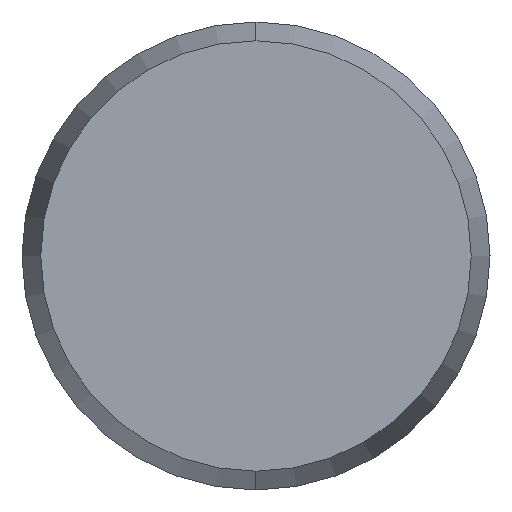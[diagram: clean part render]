
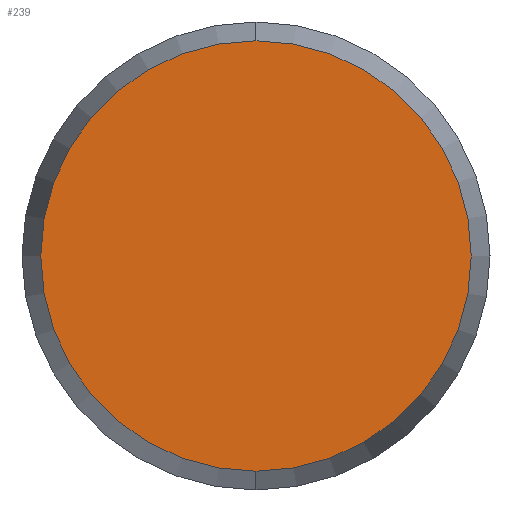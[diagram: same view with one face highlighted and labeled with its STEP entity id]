
A CAD part, left-side view. The second image highlights one B-rep face of the part: STEP entity #239.
In plain terms, the highlighted planar face has unit normal (-1, 0, 0).
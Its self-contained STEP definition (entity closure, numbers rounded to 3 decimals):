
#46 = CIRCLE ( 'NONE', #54, 4.598 ) ;
#47 = PLANE ( 'NONE',  #52 ) ;
#48 = DIRECTION ( 'NONE',  ( 0., 0., -1. ) ) ;
#49 = DIRECTION ( 'NONE',  ( 0., 0., -1. ) ) ;
#50 = DIRECTION ( 'NONE',  ( 1., 0., 0. ) ) ;
#51 = DIRECTION ( 'NONE',  ( 1., 0., 0. ) ) ;
#52 = AXIS2_PLACEMENT_3D ( 'NONE', #56, #51, #48 ) ;
#53 = CARTESIAN_POINT ( 'NONE',  ( -35., 0., 0. ) ) ;
#54 = AXIS2_PLACEMENT_3D ( 'NONE', #53, #50, #49 ) ;
#55 = FACE_OUTER_BOUND ( 'NONE', #234, .T. ) ;
#56 = CARTESIAN_POINT ( 'NONE',  ( -35., 0., 0. ) ) ;
#189 = VERTEX_POINT ( 'NONE', #260 ) ;
#190 = VERTEX_POINT ( 'NONE', #262 ) ;
#192 = EDGE_CURVE ( 'NONE', #190, #189, #261, .T. ) ;
#234 = EDGE_LOOP ( 'NONE', ( #246, #241 ) ) ;
#239 = ADVANCED_FACE ( 'NONE', ( #55 ), #47, .F. ) ;
#241 = ORIENTED_EDGE ( 'NONE', *, *, #244, .F. ) ;
#244 = EDGE_CURVE ( 'NONE', #189, #190, #46, .T. ) ;
#246 = ORIENTED_EDGE ( 'NONE', *, *, #192, .F. ) ;
#257 = DIRECTION ( 'NONE',  ( 0., 0., -1. ) ) ;
#258 = CARTESIAN_POINT ( 'NONE',  ( -35., 0., 0. ) ) ;
#259 = AXIS2_PLACEMENT_3D ( 'NONE', #258, #263, #257 ) ;
#260 = CARTESIAN_POINT ( 'NONE',  ( -35., 0., -4.598 ) ) ;
#261 = CIRCLE ( 'NONE', #259, 4.598 ) ;
#262 = CARTESIAN_POINT ( 'NONE',  ( -35., 0., 4.598 ) ) ;
#263 = DIRECTION ( 'NONE',  ( 1., 0., 0. ) ) ;
